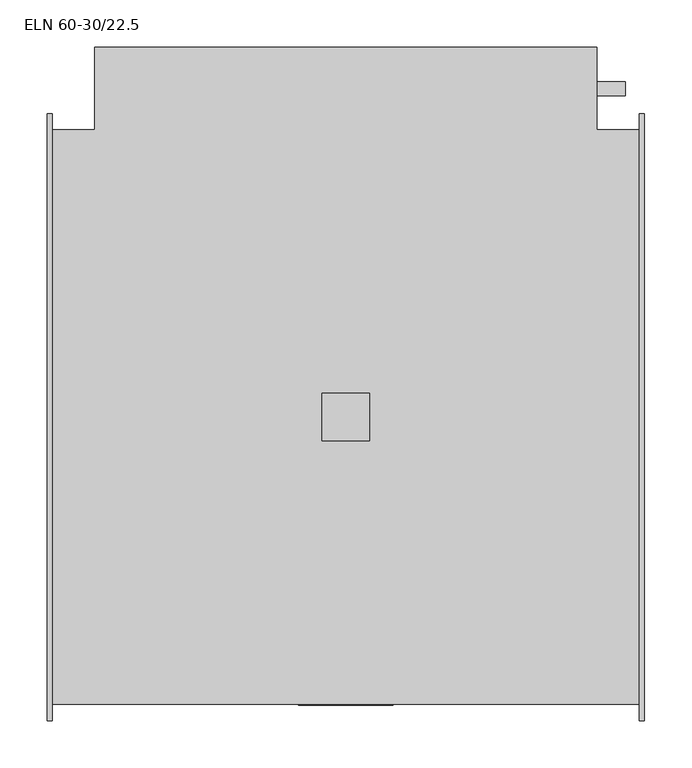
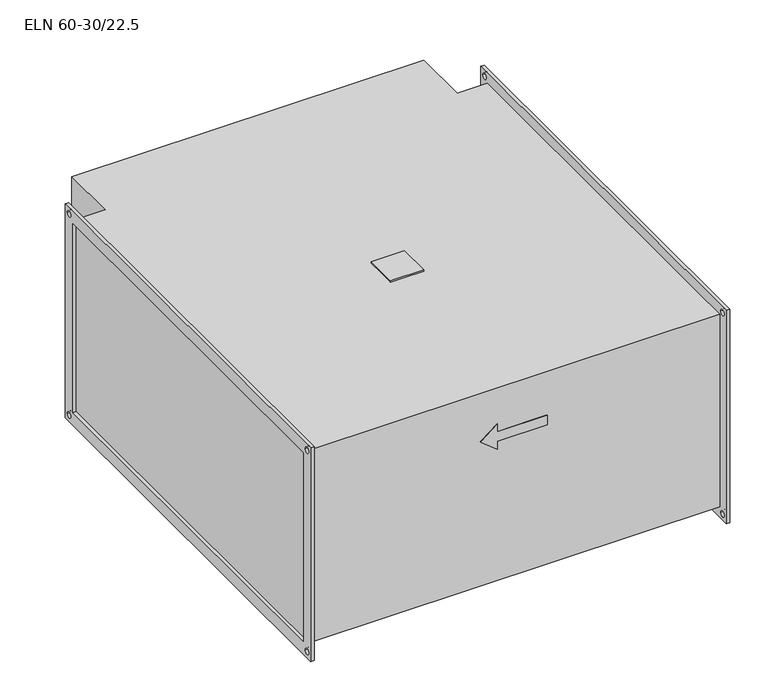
"""IFC4 building model written with IfcOpenShell, lengths in millimetres: proxy geometry, KORF_Нагреватель_Электрический_ELN : ELN 60-30/22.5."""

from ifc_helpers import new_model, si_unit, point, frame, frame_2d, origin, place, context, project, spatial, polyline, circle_curve, trimmed, segment, composite_curve, outline, extrude, source, transform, mapped, element, save


def eln_60_30_22_5_3fbc5c95(model_context):
    return source(origin(), model_context, "Body", "SweptSolid", [
        extrude(outline(polyline([(290.0, -25.0), (290.0, 25.0), (340.0, 25.0), (340.0, -25.0), (290.0, -25.0)])), frame((0.0, 0.0, 153.0), z_axis=(0.0, 0.0, 1.0), x_axis=(1.0, 0.0, 0.0)), (0.0, 0.0, 1.0), 2.0),
        extrude(outline(composite_curve([segment(trimmed(circle_curve(frame_2d((346.5, -76.5)), 7.5), [point((339.0, -76.5))], [point((354.0, -76.5))], False, "CARTESIAN"), True, "CONTINUOUS"), segment(trimmed(circle_curve(frame_2d((346.5, -76.5)), 7.5), [point((354.0, -76.5))], [point((339.0, -76.5))], False, "CARTESIAN"), True, "CONTINUOUS")], self_intersect=False)), frame((580.0, 0.0, 0.0), z_axis=(1.0, 0.0, 0.0), x_axis=(0.0, 1.0, 0.0)), (0.0, 0.0, 1.0), 30.0),
        extrude(outline(composite_curve([segment(trimmed(circle_curve(frame_2d((346.5, -56.5)), 7.5), [point((339.0, -56.5))], [point((354.0, -56.5))], False, "CARTESIAN"), True, "CONTINUOUS"), segment(trimmed(circle_curve(frame_2d((346.5, -56.5)), 7.5), [point((354.0, -56.5))], [point((339.0, -56.5))], False, "CARTESIAN"), True, "CONTINUOUS")], self_intersect=False)), frame((580.0, 0.0, 0.0), z_axis=(1.0, 0.0, 0.0), x_axis=(0.0, 1.0, 0.0)), (0.0, 0.0, 1.0), 30.0),
        extrude(outline(composite_curve([segment(trimmed(circle_curve(frame_2d((346.5, -96.5)), 7.5), [point((339.0, -96.5))], [point((354.0, -96.5))], False, "CARTESIAN"), True, "CONTINUOUS"), segment(trimmed(circle_curve(frame_2d((346.5, -96.5)), 7.5), [point((354.0, -96.5))], [point((339.0, -96.5))], False, "CARTESIAN"), True, "CONTINUOUS")], self_intersect=False)), frame((580.0, 0.0, 0.0), z_axis=(1.0, 0.0, 0.0), x_axis=(0.0, 1.0, 0.0)), (0.0, 0.0, 1.0), 30.0),
        extrude(outline(polyline([(96.5, 290.0), (76.5, 265.0), (56.5, 290.0), (69.0, 290.0), (69.0, 365.0), (84.0, 365.0), (84.0, 290.0), (96.5, 290.0)])), frame((0.0, -304.0, 0.0), z_axis=(0.0, 1.0, 0.0), x_axis=(0.0, 0.0, 1.0)), (0.0, 0.0, 1.0), 1.0),
        extrude(outline(polyline([(625.0, 303.0), (625.0, -303.0), (5.0, -303.0), (5.0, 303.0), (50.0, 303.0), (50.0, 390.0), (580.0, 390.0), (580.0, 303.0), (625.0, 303.0)])), frame((0.0, 0.0, -153.0), z_axis=(0.0, 0.0, 1.0), x_axis=(1.0, 0.0, 0.0)), (0.0, 0.0, 1.0), 306.0),
        extrude(outline(polyline([(-320.0, 170.0), (320.0, 170.0), (320.0, -170.0), (-320.0, -170.0), (-320.0, 170.0)]), holes=[polyline([(-300.0, 150.0), (-300.0, -150.0), (300.0, -150.0), (300.0, 150.0), (-300.0, 150.0)]), composite_curve([segment(trimmed(circle_curve(frame_2d((310.0, 160.0)), 4.5), [point((305.5, 160.0))], [point((314.5, 160.0))], True, "CARTESIAN"), True, "CONTINUOUS"), segment(trimmed(circle_curve(frame_2d((310.0, 160.0)), 4.5), [point((314.5, 160.0))], [point((305.5, 160.0))], True, "CARTESIAN"), True, "CONTINUOUS")], self_intersect=False), composite_curve([segment(trimmed(circle_curve(frame_2d((-310.0, 160.0)), 4.5), [point((-314.5, 160.0))], [point((-305.5, 160.0))], True, "CARTESIAN"), True, "CONTINUOUS"), segment(trimmed(circle_curve(frame_2d((-310.0, 160.0)), 4.5), [point((-305.5, 160.0))], [point((-314.5, 160.0))], True, "CARTESIAN"), True, "CONTINUOUS")], self_intersect=False), composite_curve([segment(trimmed(circle_curve(frame_2d((-310.0, -160.0)), 4.5), [point((-314.5, -160.0))], [point((-305.5, -160.0))], True, "CARTESIAN"), True, "CONTINUOUS"), segment(trimmed(circle_curve(frame_2d((-310.0, -160.0)), 4.5), [point((-305.5, -160.0))], [point((-314.5, -160.0))], True, "CARTESIAN"), True, "CONTINUOUS")], self_intersect=False), composite_curve([segment(trimmed(circle_curve(frame_2d((310.0, -160.0)), 4.5), [point((305.5, -160.0))], [point((314.5, -160.0))], True, "CARTESIAN"), True, "CONTINUOUS"), segment(trimmed(circle_curve(frame_2d((310.0, -160.0)), 4.5), [point((314.5, -160.0))], [point((305.5, -160.0))], True, "CARTESIAN"), True, "CONTINUOUS")], self_intersect=False)]), frame((625.0, 0.0, 0.0), z_axis=(1.0, 0.0, 0.0), x_axis=(0.0, 1.0, 0.0)), (0.0, 0.0, 1.0), 5.0),
        extrude(outline(polyline([(-320.0, 170.0), (320.0, 170.0), (320.0, -170.0), (-320.0, -170.0), (-320.0, 170.0)]), holes=[polyline([(-300.0, 150.0), (-300.0, -150.0), (300.0, -150.0), (300.0, 150.0), (-300.0, 150.0)]), composite_curve([segment(trimmed(circle_curve(frame_2d((310.0, 160.0)), 4.5), [point((305.5, 160.0))], [point((314.5, 160.0))], True, "CARTESIAN"), True, "CONTINUOUS"), segment(trimmed(circle_curve(frame_2d((310.0, 160.0)), 4.5), [point((314.5, 160.0))], [point((305.5, 160.0))], True, "CARTESIAN"), True, "CONTINUOUS")], self_intersect=False), composite_curve([segment(trimmed(circle_curve(frame_2d((-310.0, 160.0)), 4.5), [point((-314.5, 160.0))], [point((-305.5, 160.0))], True, "CARTESIAN"), True, "CONTINUOUS"), segment(trimmed(circle_curve(frame_2d((-310.0, 160.0)), 4.5), [point((-305.5, 160.0))], [point((-314.5, 160.0))], True, "CARTESIAN"), True, "CONTINUOUS")], self_intersect=False), composite_curve([segment(trimmed(circle_curve(frame_2d((-310.0, -160.0)), 4.5), [point((-314.5, -160.0))], [point((-305.5, -160.0))], True, "CARTESIAN"), True, "CONTINUOUS"), segment(trimmed(circle_curve(frame_2d((-310.0, -160.0)), 4.5), [point((-305.5, -160.0))], [point((-314.5, -160.0))], True, "CARTESIAN"), True, "CONTINUOUS")], self_intersect=False), composite_curve([segment(trimmed(circle_curve(frame_2d((310.0, -160.0)), 4.5), [point((305.5, -160.0))], [point((314.5, -160.0))], True, "CARTESIAN"), True, "CONTINUOUS"), segment(trimmed(circle_curve(frame_2d((310.0, -160.0)), 4.5), [point((314.5, -160.0))], [point((305.5, -160.0))], True, "CARTESIAN"), True, "CONTINUOUS")], self_intersect=False)]), frame((0.0, 0.0, 0.0), z_axis=(1.0, 0.0, 0.0), x_axis=(0.0, 1.0, 0.0)), (0.0, 0.0, 1.0), 5.0),
    ])


if __name__ == "__main__":
    model = new_model("IFC4")
    model_context = context("Model", 3, world=origin())
    ifc_project = project(units=[si_unit("LENGTHUNIT", "METRE", prefix="MILLI")], contexts=[model_context])
    site = spatial("IfcSite", under=ifc_project)
    building = spatial("IfcBuilding", under=site)
    placement = place(None, origin())
    eln_60_30_22_5_shape = eln_60_30_22_5_3fbc5c95(model_context)
    element("IfcBuildingElementProxy", 1, Name="KORF_Нагреватель_Электрический_ELN : ELN 60-30/22.5", ObjectType="KORF_Нагреватель_Электрический_ELN : ELN 60-30/22.5", at=placement, inside=building, context=model_context, shape_type="MappedRepresentation", body=[
        mapped(eln_60_30_22_5_shape, transform((0.0, 0.0, 0.0), x_axis=(1.0, 0.0, 0.0), y_axis=(0.0, 1.0, 0.0), z_axis=(0.0, 0.0, 1.0))),
    ])
    save(model, "model.ifc")
